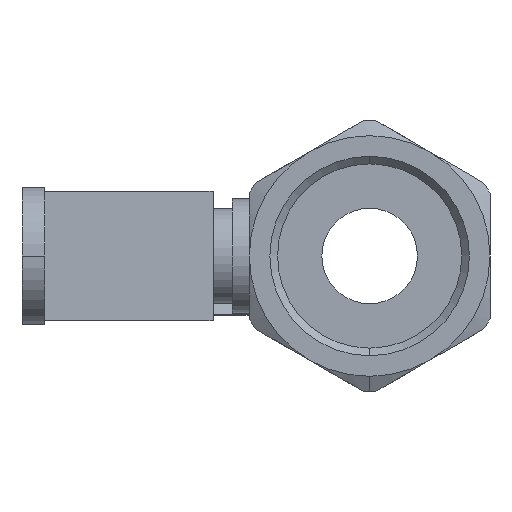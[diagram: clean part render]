
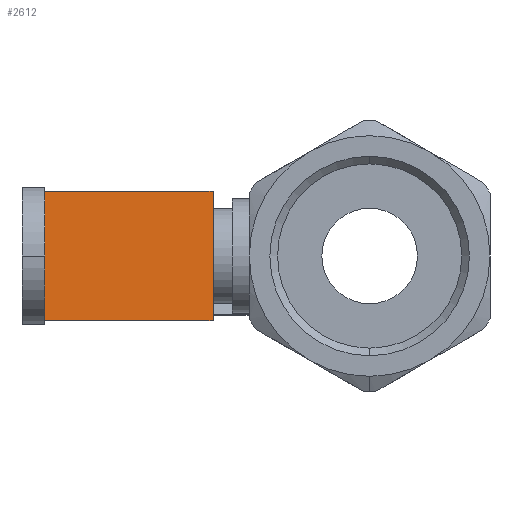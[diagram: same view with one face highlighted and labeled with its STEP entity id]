
A CAD part, left-side view. The second image highlights one B-rep face of the part: STEP entity #2612.
In plain terms, the highlighted planar face has unit normal (-0.707, -0.707, 0).
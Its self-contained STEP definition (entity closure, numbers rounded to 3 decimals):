
#112 = EDGE_CURVE ( 'NONE', #3110, #305, #1125, .T. ) ;
#218 = DIRECTION ( 'NONE',  ( 0.707, -0.707, 0. ) ) ;
#305 = VERTEX_POINT ( 'NONE', #2008 ) ;
#333 = VECTOR ( 'NONE', #218, 1000. ) ;
#346 = CARTESIAN_POINT ( 'NONE',  ( -32.5, 43., 8.5 ) ) ;
#353 = EDGE_LOOP ( 'NONE', ( #1901, #2935, #1467, #1385 ) ) ;
#371 = CARTESIAN_POINT ( 'NONE',  ( -32.5, 43., -8.5 ) ) ;
#438 = PLANE ( 'NONE',  #1079 ) ;
#594 = CARTESIAN_POINT ( 'NONE',  ( -32.5, 43., 8.5 ) ) ;
#606 = CARTESIAN_POINT ( 'NONE',  ( -32.5, 43., 8.5 ) ) ;
#1039 = DIRECTION ( 'NONE',  ( -0.707, 0.707, 0. ) ) ;
#1079 = AXIS2_PLACEMENT_3D ( 'NONE', #3017, #2730, #1039 ) ;
#1125 = LINE ( 'NONE', #371, #333 ) ;
#1265 = CARTESIAN_POINT ( 'NONE',  ( -10., 20.5, 8.5 ) ) ;
#1299 = VECTOR ( 'NONE', #2974, 1000. ) ;
#1385 = ORIENTED_EDGE ( 'NONE', *, *, #1581, .T. ) ;
#1467 = ORIENTED_EDGE ( 'NONE', *, *, #1490, .F. ) ;
#1490 = EDGE_CURVE ( 'NONE', #3046, #2251, #2587, .T. ) ;
#1581 = EDGE_CURVE ( 'NONE', #3046, #3110, #2975, .T. ) ;
#1675 = EDGE_CURVE ( 'NONE', #2251, #305, #2883, .T. ) ;
#1738 = FACE_OUTER_BOUND ( 'NONE', #353, .T. ) ;
#1809 = CARTESIAN_POINT ( 'NONE',  ( -32.5, 43., -8.5 ) ) ;
#1901 = ORIENTED_EDGE ( 'NONE', *, *, #112, .T. ) ;
#2008 = CARTESIAN_POINT ( 'NONE',  ( -10., 20.5, -8.5 ) ) ;
#2041 = DIRECTION ( 'NONE',  ( 0.707, -0.707, 0. ) ) ;
#2235 = VECTOR ( 'NONE', #3236, 1000. ) ;
#2251 = VERTEX_POINT ( 'NONE', #2832 ) ;
#2496 = VECTOR ( 'NONE', #2041, 1000. ) ;
#2587 = LINE ( 'NONE', #594, #2496 ) ;
#2612 = ADVANCED_FACE ( 'NONE', ( #1738 ), #438, .F. ) ;
#2730 = DIRECTION ( 'NONE',  ( 0.707, 0.707, 0. ) ) ;
#2832 = CARTESIAN_POINT ( 'NONE',  ( -10., 20.5, 8.5 ) ) ;
#2883 = LINE ( 'NONE', #1265, #1299 ) ;
#2935 = ORIENTED_EDGE ( 'NONE', *, *, #1675, .F. ) ;
#2974 = DIRECTION ( 'NONE',  ( 0., 0., -1. ) ) ;
#2975 = LINE ( 'NONE', #346, #2235 ) ;
#3017 = CARTESIAN_POINT ( 'NONE',  ( -32.5, 43., 8.5 ) ) ;
#3046 = VERTEX_POINT ( 'NONE', #606 ) ;
#3110 = VERTEX_POINT ( 'NONE', #1809 ) ;
#3236 = DIRECTION ( 'NONE',  ( 0., 0., -1. ) ) ;
